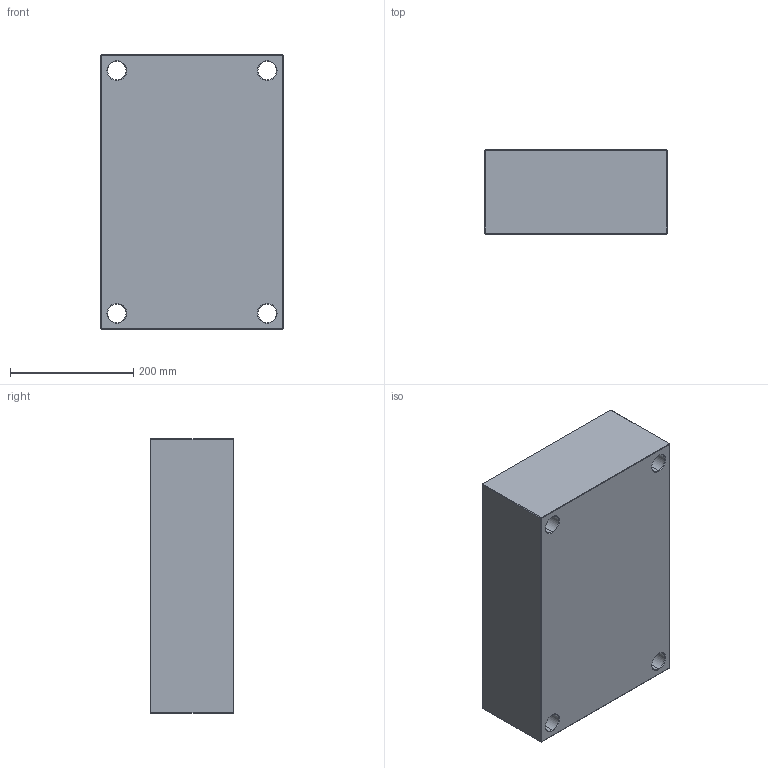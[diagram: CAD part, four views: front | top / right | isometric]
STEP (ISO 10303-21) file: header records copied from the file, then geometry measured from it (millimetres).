
FILE_DESCRIPTION (( 'STEP AP214' ), '1' );
FILE_NAME ('PC-296x446x136.STEP', '2020-04-21T16:40:10', ( 'August' ), ( '' ), 'SwSTEP 2.0', 'SolidWorks 2018', '' );
FILE_SCHEMA (( 'AUTOMOTIVE_DESIGN' ));
Length unit declared in the file: millimetre
Products named in the file (1): PC-296x446x136
Bounding box: 296 x 136 x 446 mm (x, y, z)
Volume: 17548696.7 mm3; surface area: 512947.2 mm2
Topology: 1 solids, 1 shells, 82 faces, 168 edges, 96 vertices
Faces by surface type: plane 34, cone 24, cylinder 24
Entity records: 2170 total; most frequent: DIRECTION 406, CARTESIAN_POINT 347, ORIENTED_EDGE 336, EDGE_CURVE 168, AXIS2_PLACEMENT_3D 155, EDGE_LOOP 98, VECTOR 96, LINE 96
